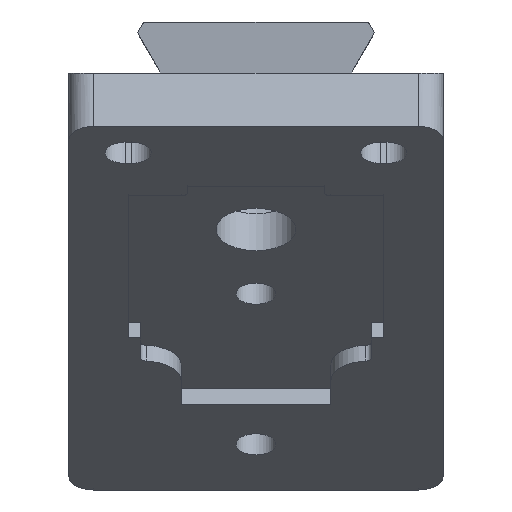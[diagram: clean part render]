
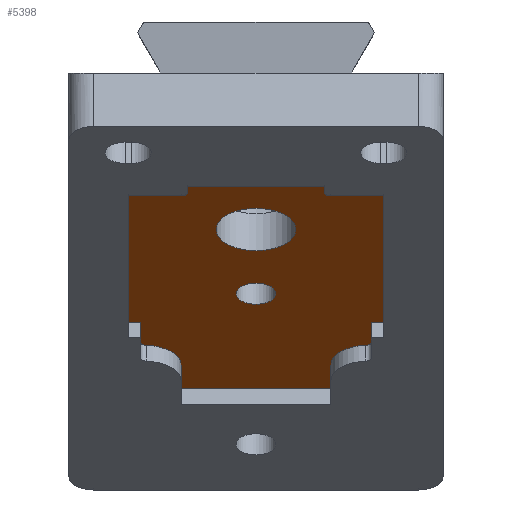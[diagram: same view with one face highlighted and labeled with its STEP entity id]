
A CAD part, left-side view. The second image highlights one B-rep face of the part: STEP entity #5398.
In plain terms, the highlighted planar face has unit normal (-0.53, 0, -0.848).
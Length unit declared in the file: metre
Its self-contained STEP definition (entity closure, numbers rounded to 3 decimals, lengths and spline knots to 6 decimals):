
#350=CIRCLE('',#5440,0.0016);
#352=CIRCLE('',#5443,0.0032);
#433=CIRCLE('',#5742,0.0005);
#434=CIRCLE('',#5743,0.003);
#435=CIRCLE('',#5744,0.003);
#436=CIRCLE('',#5745,0.0005);
#437=CIRCLE('',#5746,0.0005);
#438=CIRCLE('',#5747,0.0005);
#1951=ORIENTED_EDGE('',*,*,#2778,.T.);
#1952=ORIENTED_EDGE('',*,*,#2792,.T.);
#1953=ORIENTED_EDGE('',*,*,#2793,.T.);
#1954=ORIENTED_EDGE('',*,*,#2779,.T.);
#1955=ORIENTED_EDGE('',*,*,#2783,.T.);
#1956=ORIENTED_EDGE('',*,*,#2785,.F.);
#1957=ORIENTED_EDGE('',*,*,#2794,.T.);
#1958=ORIENTED_EDGE('',*,*,#2795,.T.);
#1959=ORIENTED_EDGE('',*,*,#2786,.F.);
#1960=ORIENTED_EDGE('',*,*,#2790,.F.);
#1961=ORIENTED_EDGE('',*,*,#2791,.T.);
#1962=ORIENTED_EDGE('',*,*,#2761,.F.);
#1963=ORIENTED_EDGE('',*,*,#2796,.T.);
#1964=ORIENTED_EDGE('',*,*,#2763,.T.);
#1965=ORIENTED_EDGE('',*,*,#2767,.T.);
#1966=ORIENTED_EDGE('',*,*,#2769,.F.);
#1967=ORIENTED_EDGE('',*,*,#2797,.T.);
#1968=ORIENTED_EDGE('',*,*,#2770,.F.);
#1969=ORIENTED_EDGE('',*,*,#2774,.F.);
#1970=ORIENTED_EDGE('',*,*,#2776,.F.);
#1971=ORIENTED_EDGE('',*,*,#2051,.F.);
#1972=ORIENTED_EDGE('',*,*,#2053,.F.);
#2051=EDGE_CURVE('',#2838,#2838,#350,.T.);
#2053=EDGE_CURVE('',#2840,#2840,#352,.T.);
#2761=EDGE_CURVE('',#3309,#3310,#3794,.T.);
#2763=EDGE_CURVE('',#3311,#3312,#3796,.T.);
#2767=EDGE_CURVE('',#3312,#3313,#3800,.T.);
#2769=EDGE_CURVE('',#3314,#3313,#3802,.T.);
#2770=EDGE_CURVE('',#3315,#3316,#3803,.T.);
#2774=EDGE_CURVE('',#3317,#3315,#3807,.T.);
#2776=EDGE_CURVE('',#3318,#3317,#3809,.T.);
#2778=EDGE_CURVE('',#3318,#3319,#3811,.T.);
#2779=EDGE_CURVE('',#3320,#3321,#3812,.T.);
#2783=EDGE_CURVE('',#3321,#3322,#3816,.T.);
#2785=EDGE_CURVE('',#3323,#3322,#3818,.T.);
#2786=EDGE_CURVE('',#3324,#3325,#3819,.T.);
#2790=EDGE_CURVE('',#3326,#3324,#3823,.T.);
#2791=EDGE_CURVE('',#3326,#3310,#3824,.T.);
#2792=EDGE_CURVE('',#3319,#3327,#433,.T.);
#2793=EDGE_CURVE('',#3327,#3320,#434,.F.);
#2794=EDGE_CURVE('',#3323,#3328,#435,.F.);
#2795=EDGE_CURVE('',#3328,#3325,#436,.T.);
#2796=EDGE_CURVE('',#3309,#3311,#437,.F.);
#2797=EDGE_CURVE('',#3314,#3316,#438,.F.);
#2838=VERTEX_POINT('',#7010);
#2840=VERTEX_POINT('',#7015);
#3309=VERTEX_POINT('',#9331);
#3310=VERTEX_POINT('',#9333);
#3311=VERTEX_POINT('',#9337);
#3312=VERTEX_POINT('',#9338);
#3313=VERTEX_POINT('',#9343);
#3314=VERTEX_POINT('',#9347);
#3315=VERTEX_POINT('',#9351);
#3316=VERTEX_POINT('',#9352);
#3317=VERTEX_POINT('',#9357);
#3318=VERTEX_POINT('',#9361);
#3319=VERTEX_POINT('',#9365);
#3320=VERTEX_POINT('',#9369);
#3321=VERTEX_POINT('',#9370);
#3322=VERTEX_POINT('',#9375);
#3323=VERTEX_POINT('',#9379);
#3324=VERTEX_POINT('',#9383);
#3325=VERTEX_POINT('',#9384);
#3326=VERTEX_POINT('',#9389);
#3327=VERTEX_POINT('',#9395);
#3328=VERTEX_POINT('',#9398);
#3794=LINE('',#9332,#4292);
#3796=LINE('',#9336,#4294);
#3800=LINE('',#9344,#4298);
#3802=LINE('',#9348,#4300);
#3803=LINE('',#9350,#4301);
#3807=LINE('',#9358,#4305);
#3809=LINE('',#9362,#4307);
#3811=LINE('',#9366,#4309);
#3812=LINE('',#9368,#4310);
#3816=LINE('',#9376,#4314);
#3818=LINE('',#9380,#4316);
#3819=LINE('',#9382,#4317);
#3823=LINE('',#9390,#4321);
#3824=LINE('',#9392,#4322);
#4292=VECTOR('',#6837,1.);
#4294=VECTOR('',#6841,1.);
#4298=VECTOR('',#6847,1.);
#4300=VECTOR('',#6851,1.);
#4301=VECTOR('',#6854,1.);
#4305=VECTOR('',#6860,1.);
#4307=VECTOR('',#6864,1.);
#4309=VECTOR('',#6868,1.);
#4310=VECTOR('',#6871,1.);
#4314=VECTOR('',#6877,1.);
#4316=VECTOR('',#6881,1.);
#4317=VECTOR('',#6884,1.);
#4321=VECTOR('',#6890,1.);
#4322=VECTOR('',#6893,1.);
#4636=EDGE_LOOP('',(#1951,#1952,#1953,#1954,#1955,#1956,#1957,#1958,#1959,
#1960,#1961,#1962,#1963,#1964,#1965,#1966,#1967,#1968,#1969,#1970));
#4637=EDGE_LOOP('',(#1971));
#4638=EDGE_LOOP('',(#1972));
#4960=FACE_BOUND('',#4636,.T.);
#4961=FACE_BOUND('',#4637,.T.);
#4962=FACE_BOUND('',#4638,.T.);
#5121=PLANE('',#5741);
#5398=ADVANCED_FACE('',(#4960,#4961,#4962),#5121,.T.);
#5440=AXIS2_PLACEMENT_3D('',#7009,#5818,#5819);
#5443=AXIS2_PLACEMENT_3D('',#7014,#5824,#5825);
#5741=AXIS2_PLACEMENT_3D('',#9393,#6894,#6895);
#5742=AXIS2_PLACEMENT_3D('',#9394,#6896,#6897);
#5743=AXIS2_PLACEMENT_3D('',#9396,#6898,#6899);
#5744=AXIS2_PLACEMENT_3D('',#9397,#6900,#6901);
#5745=AXIS2_PLACEMENT_3D('',#9399,#6902,#6903);
#5746=AXIS2_PLACEMENT_3D('',#9400,#6904,#6905);
#5747=AXIS2_PLACEMENT_3D('',#9401,#6906,#6907);
#5818=DIRECTION('',(-0.53,0.,-0.848));
#5819=DIRECTION('',(-0.848,0.,0.53));
#5824=DIRECTION('',(-0.53,0.,-0.848));
#5825=DIRECTION('',(-0.848,0.,0.53));
#6837=DIRECTION('',(0.,-1.,0.));
#6841=DIRECTION('',(-0.848,0.,0.53));
#6847=DIRECTION('',(0.,1.,0.));
#6851=DIRECTION('',(-0.848,0.,0.53));
#6854=DIRECTION('',(0.,-1.,0.));
#6860=DIRECTION('',(-0.848,0.,0.53));
#6864=DIRECTION('',(0.,1.,0.));
#6868=DIRECTION('',(0.848,0.,-0.53));
#6871=DIRECTION('',(0.848,0.,-0.53));
#6877=DIRECTION('',(0.,-1.,0.));
#6881=DIRECTION('',(0.848,0.,-0.53));
#6884=DIRECTION('',(0.848,0.,-0.53));
#6890=DIRECTION('',(0.,1.,0.));
#6893=DIRECTION('',(-0.848,0.,0.53));
#6894=DIRECTION('',(-0.53,0.,-0.848));
#6895=DIRECTION('',(0.848,0.,-0.53));
#6896=DIRECTION('',(-0.53,0.,-0.848));
#6897=DIRECTION('',(-0.848,0.,0.53));
#6898=DIRECTION('',(-0.53,0.,-0.848));
#6899=DIRECTION('',(-0.848,0.,0.53));
#6900=DIRECTION('',(-0.53,0.,-0.848));
#6901=DIRECTION('',(-0.848,0.,0.53));
#6902=DIRECTION('',(-0.53,0.,-0.848));
#6903=DIRECTION('',(-0.848,0.,0.53));
#6904=DIRECTION('',(-0.53,0.,-0.848));
#6905=DIRECTION('',(-0.848,0.,0.53));
#6906=DIRECTION('',(-0.53,0.,-0.848));
#6907=DIRECTION('',(-0.848,0.,0.53));
#7009=CARTESIAN_POINT('',(0.021619,0.,-0.017674));
#7010=CARTESIAN_POINT('',(0.020262,0.,-0.016826));
#7014=CARTESIAN_POINT('',(0.013393,0.,-0.012534));
#7015=CARTESIAN_POINT('',(0.010679,0.,-0.010838));
#9331=CARTESIAN_POINT('',(0.007033,-0.006,-0.00856));
#9332=CARTESIAN_POINT('',(0.007033,-0.007875,-0.00856));
#9333=CARTESIAN_POINT('',(0.007033,-0.01025,-0.00856));
#9336=CARTESIAN_POINT('',(0.006439,-0.0055,-0.008189));
#9337=CARTESIAN_POINT('',(0.006609,-0.0055,-0.008295));
#9338=CARTESIAN_POINT('',(0.005845,-0.0055,-0.007818));
#9343=CARTESIAN_POINT('',(0.005845,0.0055,-0.007818));
#9344=CARTESIAN_POINT('',(0.005845,0.,-0.007818));
#9347=CARTESIAN_POINT('',(0.006609,0.0055,-0.008295));
#9348=CARTESIAN_POINT('',(0.006439,0.0055,-0.008189));
#9350=CARTESIAN_POINT('',(0.007033,0.007875,-0.00856));
#9351=CARTESIAN_POINT('',(0.007033,0.01025,-0.00856));
#9352=CARTESIAN_POINT('',(0.007033,0.006,-0.00856));
#9357=CARTESIAN_POINT('',(0.025266,0.01025,-0.019953));
#9358=CARTESIAN_POINT('',(0.016149,0.01025,-0.014256));
#9361=CARTESIAN_POINT('',(0.025266,0.00925,-0.019953));
#9362=CARTESIAN_POINT('',(0.025266,0.00975,-0.019953));
#9365=CARTESIAN_POINT('',(0.027817,0.00925,-0.021547));
#9366=CARTESIAN_POINT('',(0.02675,0.00925,-0.02088));
#9368=CARTESIAN_POINT('',(0.03099,0.006,-0.02353));
#9369=CARTESIAN_POINT('',(0.030778,0.006,-0.023397));
#9370=CARTESIAN_POINT('',(0.033746,0.006,-0.025252));
#9375=CARTESIAN_POINT('',(0.033746,-0.006,-0.025252));
#9376=CARTESIAN_POINT('',(0.033746,0.,-0.025252));
#9379=CARTESIAN_POINT('',(0.030778,-0.006,-0.023397));
#9380=CARTESIAN_POINT('',(0.03099,-0.006,-0.02353));
#9382=CARTESIAN_POINT('',(0.02675,-0.00925,-0.02088));
#9383=CARTESIAN_POINT('',(0.025266,-0.00925,-0.019953));
#9384=CARTESIAN_POINT('',(0.027817,-0.00925,-0.021547));
#9389=CARTESIAN_POINT('',(0.025266,-0.01025,-0.019953));
#9390=CARTESIAN_POINT('',(0.025266,-0.00975,-0.019953));
#9392=CARTESIAN_POINT('',(0.019329,-0.01025,-0.016243));
#9393=CARTESIAN_POINT('',(0.02145,0.,-0.017568));
#9394=CARTESIAN_POINT('',(0.027817,0.00875,-0.021547));
#9395=CARTESIAN_POINT('',(0.02824,0.008786,-0.021812));
#9396=CARTESIAN_POINT('',(0.030778,0.009,-0.023397));
#9397=CARTESIAN_POINT('',(0.030778,-0.009,-0.023397));
#9398=CARTESIAN_POINT('',(0.02824,-0.008786,-0.021812));
#9399=CARTESIAN_POINT('',(0.027817,-0.00875,-0.021547));
#9400=CARTESIAN_POINT('',(0.006609,-0.006,-0.008295));
#9401=CARTESIAN_POINT('',(0.006609,0.006,-0.008295));
